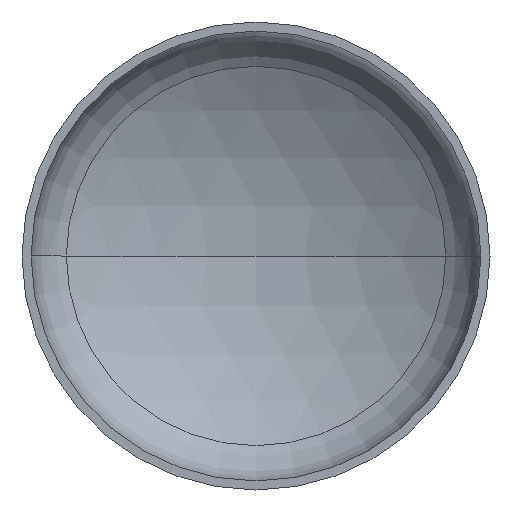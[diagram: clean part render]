
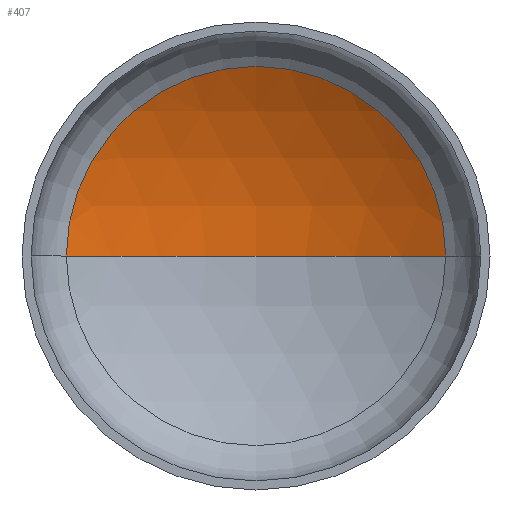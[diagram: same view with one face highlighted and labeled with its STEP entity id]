
A CAD part, front view. The second image highlights one B-rep face of the part: STEP entity #407.
In plain terms, the highlighted spherical face has radius 1520 mm.
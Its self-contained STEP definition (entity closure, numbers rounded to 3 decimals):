
#8 = CARTESIAN_POINT ( 'NONE',  ( 0., -940.552, 0. ) ) ;
#17 = EDGE_LOOP ( 'NONE', ( #303, #29, #133 ) ) ;
#23 = VERTEX_POINT ( 'NONE', #252 ) ;
#29 = ORIENTED_EDGE ( 'NONE', *, *, #92, .T. ) ;
#40 = AXIS2_PLACEMENT_3D ( 'NONE', #8, #201, #267 ) ;
#43 = AXIS2_PLACEMENT_3D ( 'NONE', #194, #196, #410 ) ;
#44 = AXIS2_PLACEMENT_3D ( 'NONE', #216, #211, #209 ) ;
#46 = VERTEX_POINT ( 'NONE', #366 ) ;
#59 = VERTEX_POINT ( 'NONE', #290 ) ;
#88 = EDGE_CURVE ( 'NONE', #46, #23, #283, .T. ) ;
#92 = EDGE_CURVE ( 'NONE', #59, #46, #405, .T. ) ;
#98 = EDGE_CURVE ( 'NONE', #59, #23, #158, .T. ) ;
#123 = DIRECTION ( 'NONE',  ( -1., 0., 0. ) ) ;
#128 = DIRECTION ( 'NONE',  ( 0., 0., -1. ) ) ;
#133 = ORIENTED_EDGE ( 'NONE', *, *, #88, .T. ) ;
#158 = CIRCLE ( 'NONE', #40, 1520. ) ;
#161 = SPHERICAL_SURFACE ( 'NONE', #362, 1520. ) ;
#194 = CARTESIAN_POINT ( 'NONE',  ( 0., -940.552, 0. ) ) ;
#196 = DIRECTION ( 'NONE',  ( 0., 0., -1. ) ) ;
#201 = DIRECTION ( 'NONE',  ( 0., 0., 1. ) ) ;
#209 = DIRECTION ( 'NONE',  ( 1., 0., 0. ) ) ;
#211 = DIRECTION ( 'NONE',  ( 0., -1., 0. ) ) ;
#216 = CARTESIAN_POINT ( 'NONE',  ( 0., 370.049, 0. ) ) ;
#252 = CARTESIAN_POINT ( 'NONE',  ( -769.886, 370.049, 0. ) ) ;
#267 = DIRECTION ( 'NONE',  ( 1., 0., 0. ) ) ;
#283 = CIRCLE ( 'NONE', #44, 769.886 ) ;
#290 = CARTESIAN_POINT ( 'NONE',  ( 0., 579.448, 0. ) ) ;
#303 = ORIENTED_EDGE ( 'NONE', *, *, #98, .F. ) ;
#331 = CARTESIAN_POINT ( 'NONE',  ( 0., -940.552, 0. ) ) ;
#351 = FACE_OUTER_BOUND ( 'NONE', #17, .T. ) ;
#362 = AXIS2_PLACEMENT_3D ( 'NONE', #331, #128, #123 ) ;
#366 = CARTESIAN_POINT ( 'NONE',  ( 769.886, 370.049, 0. ) ) ;
#405 = CIRCLE ( 'NONE', #43, 1520. ) ;
#407 = ADVANCED_FACE ( 'NONE', ( #351 ), #161, .F. ) ;
#410 = DIRECTION ( 'NONE',  ( -1., 0., 0. ) ) ;
